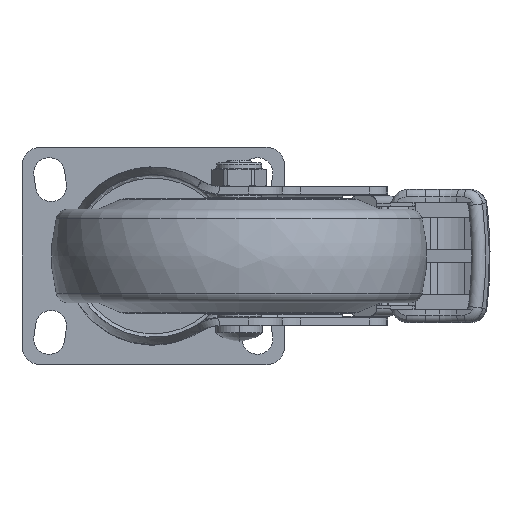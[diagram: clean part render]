
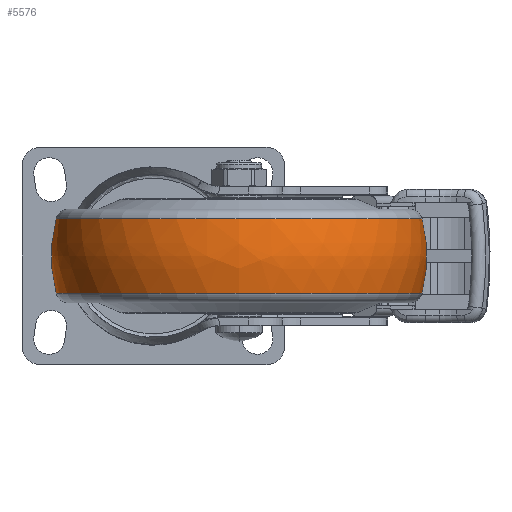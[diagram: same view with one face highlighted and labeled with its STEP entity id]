
A CAD part, front view. The second image highlights one B-rep face of the part: STEP entity #5576.
In plain terms, the highlighted free-form (B-spline) face has degree [3, 3] with [7, 4] control points.
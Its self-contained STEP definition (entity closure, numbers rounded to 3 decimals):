
#5078=CARTESIAN_POINT('',(0.,10.,0.));
#5079=DIRECTION('',(0.,0.,1.));
#5080=DIRECTION('',(0.247,0.969,0.));
#5081=AXIS2_PLACEMENT_3D('',#5078,#5079,#5080);
#5083=CARTESIAN_POINT('',(0.,-10.,0.));
#5084=DIRECTION('',(0.,0.,-1.));
#5085=DIRECTION('',(0.247,-0.969,0.));
#5086=AXIS2_PLACEMENT_3D('',#5083,#5084,#5085);
#5088=CARTESIAN_POINT('',(9.863,0.,0.));
#5089=DIRECTION('',(-1.,0.,0.));
#5090=DIRECTION('',(0.,1.,0.));
#5091=AXIS2_PLACEMENT_3D('',#5088,#5089,#5090);
#5113=CARTESIAN_POINT('',(-9.863,0.,0.));
#5114=DIRECTION('',(-1.,0.,0.));
#5115=DIRECTION('',(0.,1.,0.));
#5116=AXIS2_PLACEMENT_3D('',#5113,#5114,#5115);
#5267=CARTESIAN_POINT('',(9.863,48.765,0.));
#5269=VERTEX_POINT('',#5267);
#5270=CARTESIAN_POINT('',(-9.863,48.765,0.));
#5271=VERTEX_POINT('',#5270);
#5307=CARTESIAN_POINT('',(9.863,-48.765,
0.));
#5309=VERTEX_POINT('',#5307);
#5310=CARTESIAN_POINT('',(-9.863,-48.765,
0.));
#5311=VERTEX_POINT('',#5310);
#5538=CARTESIAN_POINT('',(-10.249,-48.569,
3.056));
#5539=CARTESIAN_POINT('',(-3.494,-50.356,
3.168));
#5540=CARTESIAN_POINT('',(3.494,-50.356,3.168));
#5541=CARTESIAN_POINT('',(10.249,-48.569,3.056));
#5542=CARTESIAN_POINT('',(-10.249,-50.449,
-26.833));
#5543=CARTESIAN_POINT('',(-3.494,-52.305,
-27.821));
#5544=CARTESIAN_POINT('',(3.494,-52.305,
-27.821));
#5545=CARTESIAN_POINT('',(10.249,-50.449,
-26.833));
#5546=CARTESIAN_POINT('',(-10.249,-29.948,
-48.665));
#5547=CARTESIAN_POINT('',(-3.494,-31.05,
-50.455));
#5548=CARTESIAN_POINT('',(3.494,-31.05,
-50.455));
#5549=CARTESIAN_POINT('',(10.249,-29.948,
-48.665));
#5550=CARTESIAN_POINT('',(-10.249,0.,
-48.665));
#5551=CARTESIAN_POINT('',(-3.494,0.,
-50.455));
#5552=CARTESIAN_POINT('',(3.494,0.,
-50.455));
#5553=CARTESIAN_POINT('',(10.249,0.,
-48.665));
#5554=CARTESIAN_POINT('',(-10.249,29.948,
-48.665));
#5555=CARTESIAN_POINT('',(-3.494,31.05,
-50.455));
#5556=CARTESIAN_POINT('',(3.494,31.05,-50.455));
#5557=CARTESIAN_POINT('',(10.249,29.948,-48.665));
#5558=CARTESIAN_POINT('',(-10.249,50.449,
-26.833));
#5559=CARTESIAN_POINT('',(-3.494,52.305,
-27.821));
#5560=CARTESIAN_POINT('',(3.494,52.305,-27.821));
#5561=CARTESIAN_POINT('',(10.249,50.449,-26.833));
#5562=CARTESIAN_POINT('',(-10.249,48.569,3.056));
#5563=CARTESIAN_POINT('',(-3.494,50.356,3.168));
#5564=CARTESIAN_POINT('',(3.494,50.356,3.168));
#5565=CARTESIAN_POINT('',(10.249,48.569,3.056));
#5566=(BOUNDED_SURFACE()B_SPLINE_SURFACE(3,3,((#5538,#5539,#5540,#5541),(#5542,
#5543,#5544,#5545),(#5546,#5547,#5548,#5549),(#5550,#5551,#5552,#5553),(#5554,
#5555,#5556,#5557),(#5558,#5559,#5560,#5561),(#5562,#5563,#5564,#5565)),
.UNSPECIFIED.,.F.,.F.,.F.)B_SPLINE_SURFACE_WITH_KNOTS((4,3,4),(4,4),(0.,1.,
2.),(0.,1.),.UNSPECIFIED.)GEOMETRIC_REPRESENTATION_ITEM()RATIONAL_B_SPLINE_SURFACE(((1.207,1.181,1.181,1.207),(
0.953,0.932,0.932,0.953),(
0.953,0.932,0.932,0.953),(
1.207,1.181,1.181,1.207),(
0.953,0.932,0.932,0.953),(
0.953,0.932,0.932,0.953),(
1.207,1.181,1.181,1.207)))REPRESENTATION_ITEM('')SURFACE());
#5568=ORIENTED_EDGE('',*,*,#5567,.T.);
#5570=ORIENTED_EDGE('',*,*,#5569,.T.);
#5572=ORIENTED_EDGE('',*,*,#5571,.F.);
#5573=ORIENTED_EDGE('',*,*,#5531,.F.);
#5574=EDGE_LOOP('',(#5568,#5570,#5572,#5573));
#5575=FACE_OUTER_BOUND('',#5574,.F.);
#5082=CIRCLE('',#5081,40.);
#5087=CIRCLE('',#5086,40.);
#5092=CIRCLE('',#5091,48.765);
#5117=CIRCLE('',#5116,48.765);
#5531=EDGE_CURVE('',#5269,#5309,#5092,.T.);
#5567=EDGE_CURVE('',#5269,#5271,#5082,.T.);
#5569=EDGE_CURVE('',#5271,#5311,#5117,.T.);
#5571=EDGE_CURVE('',#5309,#5311,#5087,.T.);
#5576=ADVANCED_FACE('',(#5575),#5566,.T.);
